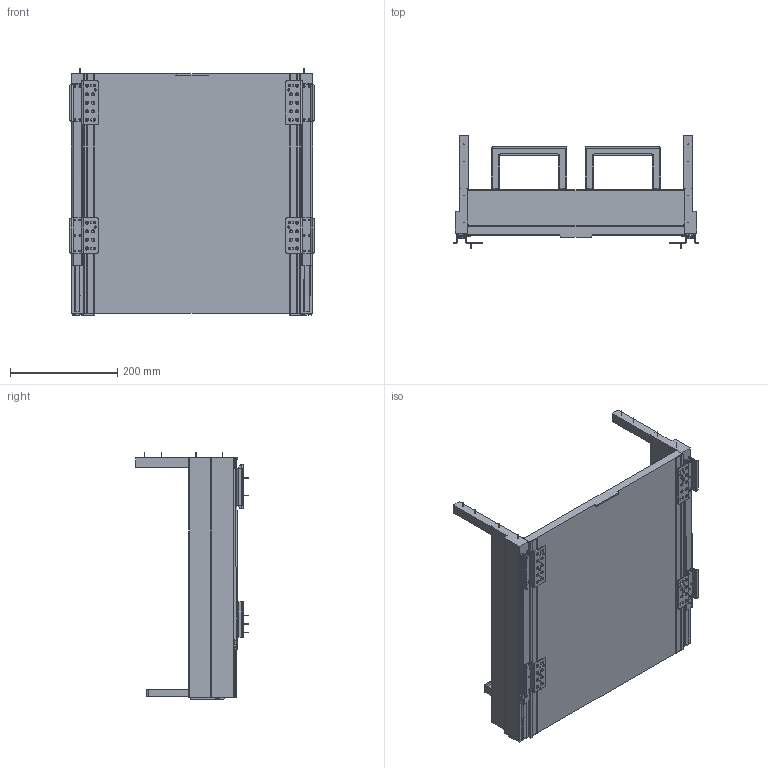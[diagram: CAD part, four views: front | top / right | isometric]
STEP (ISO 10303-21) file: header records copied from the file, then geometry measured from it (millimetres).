
FILE_DESCRIPTION((''),'2;1');
FILE_NAME('80_61_201','2024-08-30T09:50:35',('bru'),(''),'CREO PARAMETRIC BY PTC INC, 2022024','CREO PARAMETRIC BY PTC INC, 2022024','');
FILE_SCHEMA(('AUTOMOTIVE_DESIGN { 1 0 10303 214 1 1 1 1 }'));
Length unit declared in the file: millimetre
Products named in the file (1): 80_61_201
Bounding box: 456.5 x 211.06 x 461.2 mm (x, y, z)
Volume: 4960989.2 mm3; surface area: 850737.5 mm2
Topology: 15 solids, 15 shells, 1345 faces, 3704 edges, 2444 vertices
Faces by surface type: plane 672, cylinder 471, extrusion 90, torus 80, sphere 20, bspline 12
Entity records: 46829 total; most frequent: CARTESIAN_POINT 11732, ORIENTED_EDGE 7394, DIRECTION 7054, EDGE_CURVE 3697, VERTEX_POINT 2438, VECTOR 2365, AXIS2_PLACEMENT_3D 2343, LINE 2275
